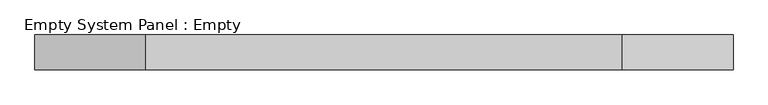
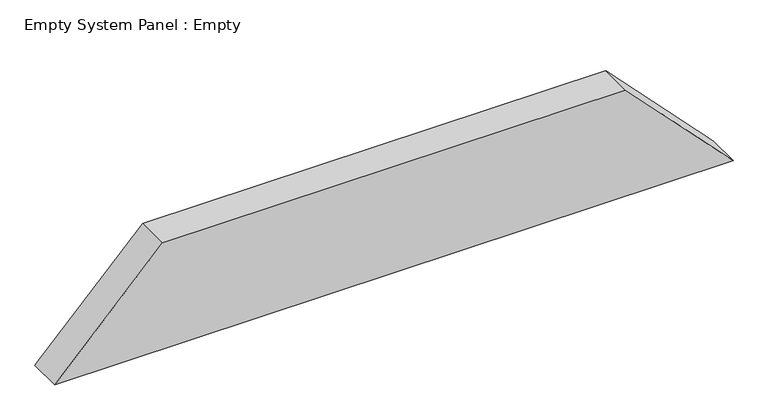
"""IFC4 building model written with IfcOpenShell, lengths in millimetres: plate geometry, Empty System Panel : Empty."""

from ifc_helpers import new_model, si_unit, frame, origin, place, context, project, spatial, polyline, outline, extrude, source, transform, mapped, element, save


def empty_system_panel_empty_852c3224(model_context):
    return source(origin(), model_context, "Body", "SweptSolid", [
        extrude(outline(polyline([(0.0, -996.2127322), (0.0, 996.2127322), (330.0, 680.1300581), (330.0, -680.1300581), (0.0, -996.2127322)])), frame((0.0, -50.0, 0.0), z_axis=(0.0, 1.0, 0.0), x_axis=(0.0, 0.0, 1.0)), (0.0, 0.0, 1.0), 100.0),
    ])


if __name__ == "__main__":
    model = new_model("IFC4")
    model_context = context("Model", 3, world=origin())
    ifc_project = project(units=[si_unit("LENGTHUNIT", "METRE", prefix="MILLI")], contexts=[model_context])
    site = spatial("IfcSite", under=ifc_project)
    building = spatial("IfcBuilding", under=site)
    placement = place(None, origin())
    empty_system_panel_empty_shape = empty_system_panel_empty_852c3224(model_context)
    element("IfcPlate", 1, ObjectType="Empty System Panel : Empty", at=placement, inside=building, context=model_context, shape_type="MappedRepresentation", body=[
        mapped(empty_system_panel_empty_shape, transform((0.0, 0.0, 0.0), x_axis=(1.0, 0.0, 0.0), y_axis=(0.0, 1.0, 0.0), z_axis=(0.0, 0.0, 1.0))),
    ])
    save(model, "model.ifc")
